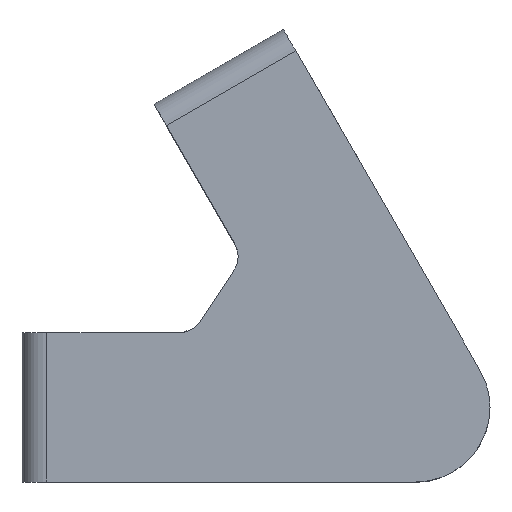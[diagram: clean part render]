
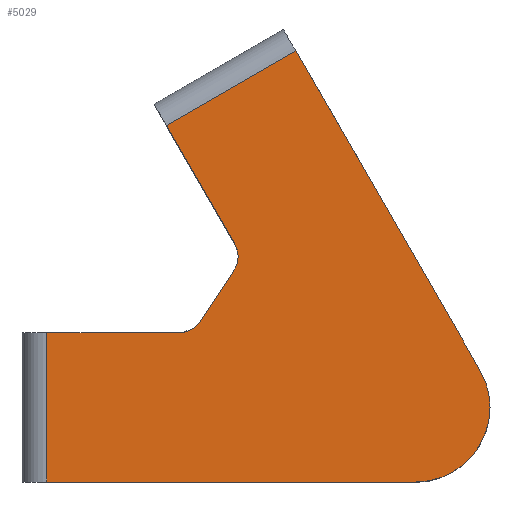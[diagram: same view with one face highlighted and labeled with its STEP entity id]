
A CAD part, top view. The second image highlights one B-rep face of the part: STEP entity #5029.
In plain terms, the highlighted planar face has unit normal (0, 0, 1) as drawn and (0, 0, -1) by its records, which use the part's own axes.
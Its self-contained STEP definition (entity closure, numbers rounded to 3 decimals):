
#87 = CARTESIAN_POINT ( 'NONE',  ( 10., 17.321, 0. ) ) ;
#91 = EDGE_CURVE ( 'NONE', #8473, #3827, #2007, .T. ) ;
#248 = VECTOR ( 'NONE', #332, 1000. ) ;
#332 = DIRECTION ( 'NONE',  ( -1., 0., 0. ) ) ;
#444 = CARTESIAN_POINT ( 'NONE',  ( 20., 0., 0. ) ) ;
#491 = EDGE_CURVE ( 'NONE', #7356, #1655, #1322, .T. ) ;
#501 = EDGE_CURVE ( 'NONE', #8360, #6580, #1013, .T. ) ;
#570 = EDGE_LOOP ( 'NONE', ( #1118, #4051, #5490, #6088, #9011, #2444, #8823, #1014, #7964, #3404, #4241, #9063 ) ) ;
#737 = EDGE_CURVE ( 'NONE', #3424, #8360, #3035, .T. ) ;
#804 = CARTESIAN_POINT ( 'NONE',  ( 5.196, 3., 0. ) ) ;
#865 = VERTEX_POINT ( 'NONE', #5281 ) ;
#996 = LINE ( 'NONE', #6697, #6537 ) ;
#1013 = CIRCLE ( 'NONE', #5763, 1. ) ;
#1014 = ORIENTED_EDGE ( 'NONE', *, *, #7312, .F. ) ;
#1118 = ORIENTED_EDGE ( 'NONE', *, *, #1623, .F. ) ;
#1217 = EDGE_CURVE ( 'NONE', #7616, #865, #9486, .T. ) ;
#1237 = LINE ( 'NONE', #6553, #9484 ) ;
#1322 = CIRCLE ( 'NONE', #1932, 3. ) ;
#1609 = DIRECTION ( 'NONE',  ( -1., 0., 0. ) ) ;
#1623 = EDGE_CURVE ( 'NONE', #7616, #5817, #996, .T. ) ;
#1645 = DIRECTION ( 'NONE',  ( 0., 0., 1. ) ) ;
#1655 = VERTEX_POINT ( 'NONE', #4449 ) ;
#1667 = VECTOR ( 'NONE', #6595, 1000. ) ;
#1696 = DIRECTION ( 'NONE',  ( -1., 0., 0. ) ) ;
#1818 = CARTESIAN_POINT ( 'NONE',  ( 21., 6., 0. ) ) ;
#1896 = DIRECTION ( 'NONE',  ( 0., 0., 1. ) ) ;
#1932 = AXIS2_PLACEMENT_3D ( 'NONE', #2459, #6200, #3857 ) ;
#1963 = CARTESIAN_POINT ( 'NONE',  ( 20., 6., 0. ) ) ;
#2007 = CIRCLE ( 'NONE', #8435, 1. ) ;
#2243 = PLANE ( 'NONE',  #7254 ) ;
#2316 = CARTESIAN_POINT ( 'NONE',  ( 13.844, 6.45, 0. ) ) ;
#2331 = LINE ( 'NONE', #6066, #1667 ) ;
#2444 = ORIENTED_EDGE ( 'NONE', *, *, #737, .T. ) ;
#2456 = CARTESIAN_POINT ( 'NONE',  ( 12.451, 9.566, 0. ) ) ;
#2459 = CARTESIAN_POINT ( 'NONE',  ( 5.196, 3., 0. ) ) ;
#2685 = CARTESIAN_POINT ( 'NONE',  ( 2.196, 3., 0. ) ) ;
#2781 = DIRECTION ( 'NONE',  ( 0.866, -0.5, 0. ) ) ;
#2909 = DIRECTION ( 'NONE',  ( 0., -1., 0. ) ) ;
#2926 = CARTESIAN_POINT ( 'NONE',  ( 15.196, 14.321, 0. ) ) ;
#2938 = CARTESIAN_POINT ( 'NONE',  ( 12.615, 8.314, 0. ) ) ;
#3035 = LINE ( 'NONE', #2938, #5584 ) ;
#3204 = DIRECTION ( 'NONE',  ( 0., 0., 1. ) ) ;
#3404 = ORIENTED_EDGE ( 'NONE', *, *, #9115, .F. ) ;
#3424 = VERTEX_POINT ( 'NONE', #6750 ) ;
#3466 = DIRECTION ( 'NONE',  ( 0.5, 0.866, 0. ) ) ;
#3672 = AXIS2_PLACEMENT_3D ( 'NONE', #8315, #1896, #1696 ) ;
#3720 = DIRECTION ( 'NONE',  ( 0., 0., 1. ) ) ;
#3827 = VERTEX_POINT ( 'NONE', #5833 ) ;
#3857 = DIRECTION ( 'NONE',  ( -1., 0., 0. ) ) ;
#3909 = EDGE_CURVE ( 'NONE', #3827, #3424, #7798, .T. ) ;
#4051 = ORIENTED_EDGE ( 'NONE', *, *, #1217, .T. ) ;
#4241 = ORIENTED_EDGE ( 'NONE', *, *, #491, .F. ) ;
#4449 = CARTESIAN_POINT ( 'NONE',  ( 5.196, 0., 0. ) ) ;
#4546 = DIRECTION ( 'NONE',  ( -1., 0., 0. ) ) ;
#4758 = DIRECTION ( 'NONE',  ( -1., 0., 0. ) ) ;
#5029 = ADVANCED_FACE ( 'NONE', ( #5261 ), #2243, .T. ) ;
#5261 = FACE_OUTER_BOUND ( 'NONE', #570, .T. ) ;
#5281 = CARTESIAN_POINT ( 'NONE',  ( 15.196, 14.321, 0. ) ) ;
#5490 = ORIENTED_EDGE ( 'NONE', *, *, #7009, .F. ) ;
#5584 = VECTOR ( 'NONE', #7251, 1000. ) ;
#5704 = VECTOR ( 'NONE', #3466, 1000. ) ;
#5763 = AXIS2_PLACEMENT_3D ( 'NONE', #8351, #1645, #4758 ) ;
#5817 = VERTEX_POINT ( 'NONE', #6719 ) ;
#5833 = CARTESIAN_POINT ( 'NONE',  ( 12.317, 9.066, 0. ) ) ;
#5981 = DIRECTION ( 'NONE',  ( -0.5, -0.866, 0. ) ) ;
#6066 = CARTESIAN_POINT ( 'NONE',  ( 21., 0., 0. ) ) ;
#6088 = ORIENTED_EDGE ( 'NONE', *, *, #91, .T. ) ;
#6200 = DIRECTION ( 'NONE',  ( 0., 0., 1. ) ) ;
#6378 = AXIS2_PLACEMENT_3D ( 'NONE', #7359, #3720, #6689 ) ;
#6537 = VECTOR ( 'NONE', #5981, 1000. ) ;
#6553 = CARTESIAN_POINT ( 'NONE',  ( 20., 0., 0. ) ) ;
#6580 = VERTEX_POINT ( 'NONE', #7116 ) ;
#6595 = DIRECTION ( 'NONE',  ( 1., 0., 0. ) ) ;
#6658 = CARTESIAN_POINT ( 'NONE',  ( 13.317, 9.066, 0. ) ) ;
#6689 = DIRECTION ( 'NONE',  ( -1., 0., 0. ) ) ;
#6695 = DIRECTION ( 'NONE',  ( 0., 0., -1. ) ) ;
#6697 = CARTESIAN_POINT ( 'NONE',  ( 2.598, 4.5, 0. ) ) ;
#6719 = CARTESIAN_POINT ( 'NONE',  ( 2.598, 4.5, 0. ) ) ;
#6750 = CARTESIAN_POINT ( 'NONE',  ( 12.482, 8.516, 0. ) ) ;
#6993 = VECTOR ( 'NONE', #2781, 1000. ) ;
#7009 = EDGE_CURVE ( 'NONE', #8473, #865, #7243, .T. ) ;
#7116 = CARTESIAN_POINT ( 'NONE',  ( 14.679, 6., 0. ) ) ;
#7138 = CIRCLE ( 'NONE', #6378, 3. ) ;
#7146 = CARTESIAN_POINT ( 'NONE',  ( 10.392, 6., 0. ) ) ;
#7243 = LINE ( 'NONE', #7146, #5704 ) ;
#7251 = DIRECTION ( 'NONE',  ( 0.55, -0.835, 0. ) ) ;
#7254 = AXIS2_PLACEMENT_3D ( 'NONE', #804, #6695, #1609 ) ;
#7312 = EDGE_CURVE ( 'NONE', #7320, #6580, #7618, .T. ) ;
#7320 = VERTEX_POINT ( 'NONE', #1963 ) ;
#7356 = VERTEX_POINT ( 'NONE', #2685 ) ;
#7359 = CARTESIAN_POINT ( 'NONE',  ( 5.196, 3., 0. ) ) ;
#7616 = VERTEX_POINT ( 'NONE', #87 ) ;
#7618 = LINE ( 'NONE', #1818, #248 ) ;
#7798 = CIRCLE ( 'NONE', #3672, 1. ) ;
#7934 = EDGE_CURVE ( 'NONE', #5817, #7356, #7138, .T. ) ;
#7964 = ORIENTED_EDGE ( 'NONE', *, *, #9113, .T. ) ;
#8315 = CARTESIAN_POINT ( 'NONE',  ( 13.317, 9.066, 0. ) ) ;
#8351 = CARTESIAN_POINT ( 'NONE',  ( 14.679, 7., 0. ) ) ;
#8360 = VERTEX_POINT ( 'NONE', #2316 ) ;
#8435 = AXIS2_PLACEMENT_3D ( 'NONE', #6658, #3204, #4546 ) ;
#8473 = VERTEX_POINT ( 'NONE', #2456 ) ;
#8604 = VERTEX_POINT ( 'NONE', #444 ) ;
#8823 = ORIENTED_EDGE ( 'NONE', *, *, #501, .T. ) ;
#9011 = ORIENTED_EDGE ( 'NONE', *, *, #3909, .T. ) ;
#9063 = ORIENTED_EDGE ( 'NONE', *, *, #7934, .F. ) ;
#9113 = EDGE_CURVE ( 'NONE', #7320, #8604, #1237, .T. ) ;
#9115 = EDGE_CURVE ( 'NONE', #1655, #8604, #2331, .T. ) ;
#9484 = VECTOR ( 'NONE', #2909, 1000. ) ;
#9486 = LINE ( 'NONE', #2926, #6993 ) ;
